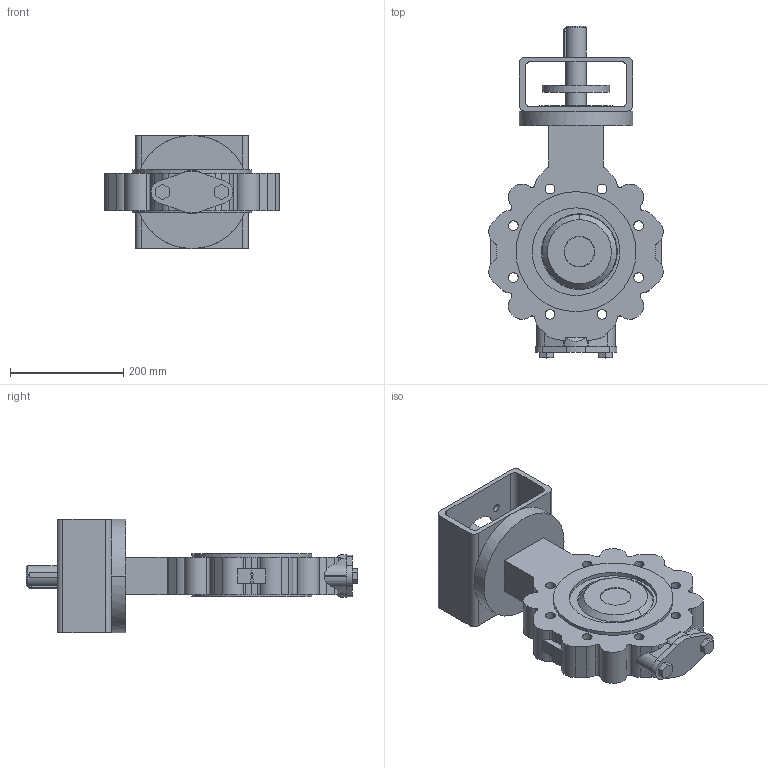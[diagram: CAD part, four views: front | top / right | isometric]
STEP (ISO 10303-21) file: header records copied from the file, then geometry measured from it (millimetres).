
FILE_DESCRIPTION( ( '' ), '1' );
FILE_NAME( 'F:/DE-SHS/TB/OR/04-Sonstiges/daten/files_3d/018_ZETRIX-PN10_freiesWellende/c000006348.stp', '2016-09-01T11:03:39', ( '' ), ( '' ), ' ', ' ', ' ' );
FILE_SCHEMA( ( 'CONFIG_CONTROL_DESIGN' ) );
Length unit declared in the file: millimetre
Products named in the file (1): 1
Bounding box: 308.29 x 586.9 x 200 mm (x, y, z)
Volume: 6866828 mm3; surface area: 600142.9 mm2
Topology: 1 solids, 1 shells, 274 faces, 760 edges, 504 vertices
Faces by surface type: cylinder 158, plane 110, cone 4, sphere 2
Entity records: 9926 total; most frequent: CARTESIAN_POINT 2515, DIRECTION 1626, ORIENTED_EDGE 1520, EDGE_CURVE 760, AXIS2_PLACEMENT_3D 625, VERTEX_POINT 504, LINE 376, VECTOR 376
